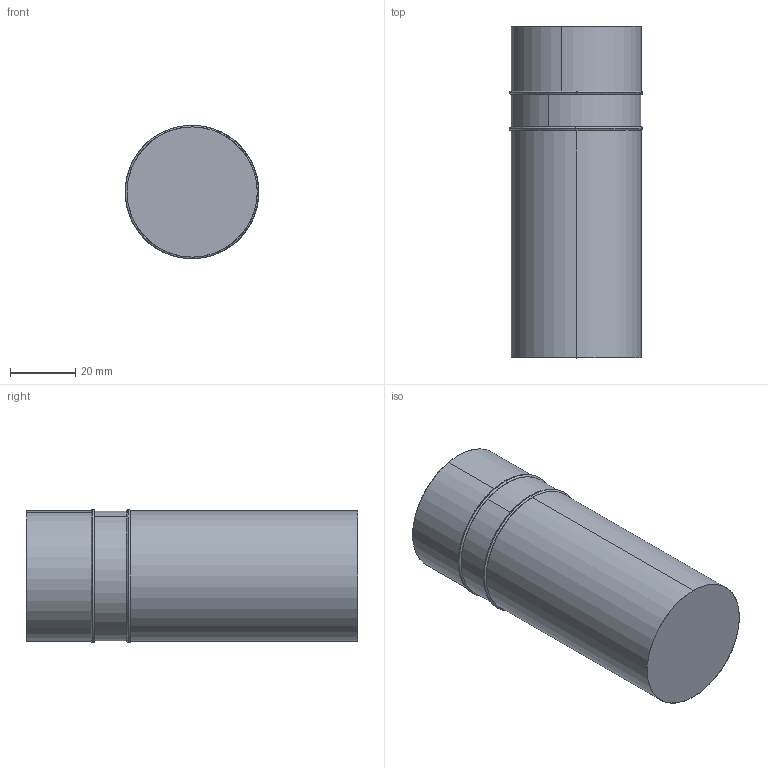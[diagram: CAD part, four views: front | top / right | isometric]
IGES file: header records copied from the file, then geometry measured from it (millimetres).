
Start section: SolidWorks IGES file using analytic representation for surfaces
Global section: file name: C:\Users\adrian\Desktop\AROA\diseño nuevo producto\tecnico\TORICA T0338\T0338.IGS; native system: SolidWorks 2023; preprocessor: SolidWorks 2023; author: adrian; date: 260828.114556; units: millimetre
Bounding box: 41.07 x 101.93 x 41.01 mm (x, y, z)
Surface area: 21009.5 mm2 (no closed solid volume)
Topology: 0 solids, 0 shells, 23 faces, 576 edges, 576 vertices
Faces by surface type: bspline 15, revolution 8
